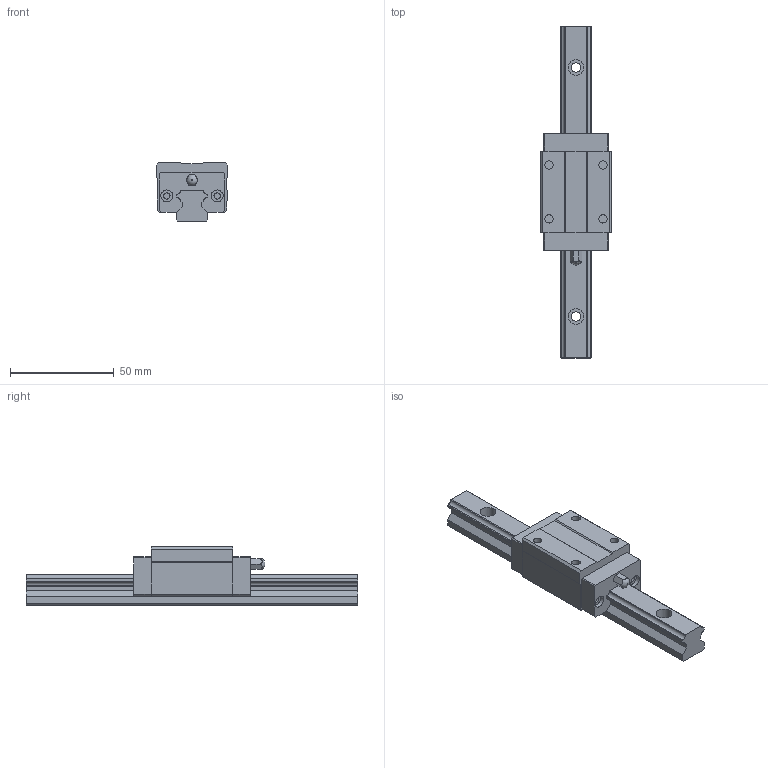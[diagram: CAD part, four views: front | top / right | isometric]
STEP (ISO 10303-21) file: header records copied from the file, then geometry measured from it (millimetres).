
FILE_DESCRIPTION(/* description */ (''),/* implementation_level */ '2;1');
FILE_NAME(/* name */ 'MSA15S',/* time_stamp */ '2003-12-29T10:11:13+08:00',/* author */ (''),/* organization */ (''),/* preprocessor_version */ 'ST-DEVELOPER v9',/* originating_system */ '',/* authorisation */ '');
FILE_SCHEMA (('CONFIG_CONTROL_DESIGN'));
Length unit declared in the file: millimetre
Products named in the file (1): zirc5932mw6x
Bounding box: 34 x 160 x 28 mm (x, y, z)
Volume: 62724.8 mm3; surface area: 20472 mm2
Topology: 3 solids, 3 shells, 130 faces, 323 edges, 215 vertices
Faces by surface type: plane 102, cylinder 26, sphere 2
Full cylindrical faces by diameter (mm): 3 x4, 4 x4, 4.5 x3, 5.8 x4, 7.5 x3
Entity records: 3842 total; most frequent: CARTESIAN_POINT 651, DIRECTION 626, ORIENTED_EDGE 610, EDGE_CURVE 305, LINE 246, VECTOR 246, VERTEX_POINT 215, AXIS2_PLACEMENT_3D 190
